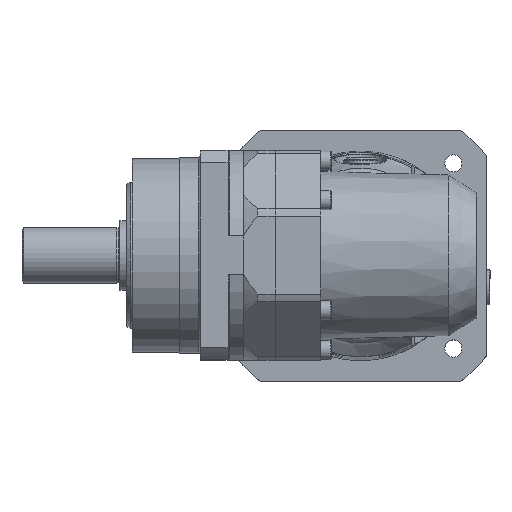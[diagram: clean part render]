
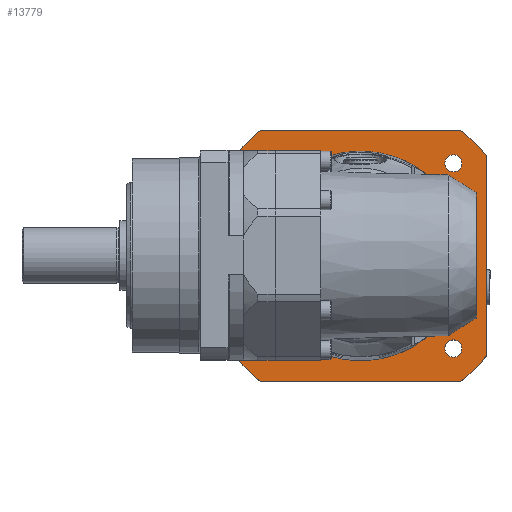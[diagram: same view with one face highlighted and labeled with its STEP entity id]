
A CAD part, top view. The second image highlights one B-rep face of the part: STEP entity #13779.
In plain terms, the highlighted planar face has unit normal (0, 0, 1) as drawn and (-1, 0, 0) by its records, which use the part's own axes.
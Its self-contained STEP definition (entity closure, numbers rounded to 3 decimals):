
#1031=FACE_BOUND('',#2953,.T.);
#1032=FACE_BOUND('',#2954,.T.);
#1033=FACE_BOUND('',#2955,.T.);
#1034=FACE_BOUND('',#2956,.T.);
#1035=FACE_BOUND('',#2957,.T.);
#1307=PLANE('',#16098);
#2020=FACE_OUTER_BOUND('',#2952,.T.);
#2952=EDGE_LOOP('',(#12579,#12580,#12581,#12582,#12583,#12584,#12585,#12586));
#2953=EDGE_LOOP('',(#12587));
#2954=EDGE_LOOP('',(#12588));
#2955=EDGE_LOOP('',(#12589));
#2956=EDGE_LOOP('',(#12590));
#2957=EDGE_LOOP('',(#12591,#12592));
#3747=LINE('',#26801,#4406);
#3750=LINE('',#26807,#4409);
#3753=LINE('',#26813,#4412);
#3756=LINE('',#26822,#4415);
#4406=VECTOR('',#20325,10.);
#4409=VECTOR('',#20330,10.);
#4412=VECTOR('',#20335,10.);
#4415=VECTOR('',#20346,10.);
#5450=CIRCLE('',#16099,46.);
#5451=CIRCLE('',#16100,46.);
#5452=CIRCLE('',#16101,46.);
#5453=CIRCLE('',#16102,46.);
#5454=CIRCLE('',#16103,2.459);
#5455=CIRCLE('',#16104,2.459);
#5456=CIRCLE('',#16105,2.459);
#5457=CIRCLE('',#16106,2.459);
#5458=CIRCLE('',#16107,30.);
#5459=CIRCLE('',#16108,30.);
#6922=VERTEX_POINT('',#26799);
#6923=VERTEX_POINT('',#26800);
#6924=VERTEX_POINT('',#26805);
#6925=VERTEX_POINT('',#26806);
#6926=VERTEX_POINT('',#26811);
#6927=VERTEX_POINT('',#26812);
#6928=VERTEX_POINT('',#26819);
#6929=VERTEX_POINT('',#26821);
#6930=VERTEX_POINT('',#26824);
#6931=VERTEX_POINT('',#26826);
#6932=VERTEX_POINT('',#26828);
#6933=VERTEX_POINT('',#26830);
#6934=VERTEX_POINT('',#26832);
#6935=VERTEX_POINT('',#26833);
#8834=EDGE_CURVE('',#6922,#6923,#3747,.T.);
#8837=EDGE_CURVE('',#6924,#6925,#3750,.T.);
#8840=EDGE_CURVE('',#6926,#6927,#3753,.T.);
#8843=EDGE_CURVE('',#6924,#6923,#5450,.T.);
#8844=EDGE_CURVE('',#6926,#6925,#5451,.T.);
#8845=EDGE_CURVE('',#6928,#6927,#5452,.T.);
#8846=EDGE_CURVE('',#6928,#6929,#3756,.T.);
#8847=EDGE_CURVE('',#6922,#6929,#5453,.T.);
#8848=EDGE_CURVE('',#6930,#6930,#5454,.T.);
#8849=EDGE_CURVE('',#6931,#6931,#5455,.T.);
#8850=EDGE_CURVE('',#6932,#6932,#5456,.T.);
#8851=EDGE_CURVE('',#6933,#6933,#5457,.T.);
#8852=EDGE_CURVE('',#6934,#6935,#5458,.T.);
#8853=EDGE_CURVE('',#6935,#6934,#5459,.T.);
#12579=ORIENTED_EDGE('',*,*,#8834,.T.);
#12580=ORIENTED_EDGE('',*,*,#8843,.F.);
#12581=ORIENTED_EDGE('',*,*,#8837,.T.);
#12582=ORIENTED_EDGE('',*,*,#8844,.F.);
#12583=ORIENTED_EDGE('',*,*,#8840,.T.);
#12584=ORIENTED_EDGE('',*,*,#8845,.F.);
#12585=ORIENTED_EDGE('',*,*,#8846,.T.);
#12586=ORIENTED_EDGE('',*,*,#8847,.F.);
#12587=ORIENTED_EDGE('',*,*,#8848,.T.);
#12588=ORIENTED_EDGE('',*,*,#8849,.T.);
#12589=ORIENTED_EDGE('',*,*,#8850,.T.);
#12590=ORIENTED_EDGE('',*,*,#8851,.T.);
#12591=ORIENTED_EDGE('',*,*,#8852,.T.);
#12592=ORIENTED_EDGE('',*,*,#8853,.T.);
#13779=ADVANCED_FACE('',(#2020,#1031,#1032,#1033,#1034,#1035),#1307,.T.);
#16098=AXIS2_PLACEMENT_3D('',#26816,#20338,#20339);
#16099=AXIS2_PLACEMENT_3D('',#26817,#20340,#20341);
#16100=AXIS2_PLACEMENT_3D('',#26818,#20342,#20343);
#16101=AXIS2_PLACEMENT_3D('',#26820,#20344,#20345);
#16102=AXIS2_PLACEMENT_3D('',#26823,#20347,#20348);
#16103=AXIS2_PLACEMENT_3D('',#26825,#20349,#20350);
#16104=AXIS2_PLACEMENT_3D('',#26827,#20351,#20352);
#16105=AXIS2_PLACEMENT_3D('',#26829,#20353,#20354);
#16106=AXIS2_PLACEMENT_3D('',#26831,#20355,#20356);
#16107=AXIS2_PLACEMENT_3D('',#26834,#20357,#20358);
#16108=AXIS2_PLACEMENT_3D('',#26835,#20359,#20360);
#20325=DIRECTION('',(0.,-0.707,-0.707));
#20330=DIRECTION('',(0.,-0.707,0.707));
#20335=DIRECTION('',(0.,0.707,0.707));
#20338=DIRECTION('center_axis',(-1.,0.,0.));
#20339=DIRECTION('ref_axis',(0.,0.,1.));
#20340=DIRECTION('center_axis',(1.,0.,0.));
#20341=DIRECTION('ref_axis',(0.,1.,0.));
#20342=DIRECTION('center_axis',(1.,0.,0.));
#20343=DIRECTION('ref_axis',(0.,1.,0.));
#20344=DIRECTION('center_axis',(1.,0.,0.));
#20345=DIRECTION('ref_axis',(0.,1.,0.));
#20346=DIRECTION('',(0.,0.707,-0.707));
#20347=DIRECTION('center_axis',(1.,0.,0.));
#20348=DIRECTION('ref_axis',(0.,1.,0.));
#20349=DIRECTION('center_axis',(1.,0.,0.));
#20350=DIRECTION('ref_axis',(0.,0.,-1.));
#20351=DIRECTION('center_axis',(1.,0.,0.));
#20352=DIRECTION('ref_axis',(0.,0.,-1.));
#20353=DIRECTION('center_axis',(1.,0.,0.));
#20354=DIRECTION('ref_axis',(0.,0.,-1.));
#20355=DIRECTION('center_axis',(1.,0.,0.));
#20356=DIRECTION('ref_axis',(0.,0.,-1.));
#20357=DIRECTION('center_axis',(1.,0.,0.));
#20358=DIRECTION('ref_axis',(0.,1.,0.));
#20359=DIRECTION('center_axis',(1.,0.,0.));
#20360=DIRECTION('ref_axis',(0.,1.,0.));
#26799=CARTESIAN_POINT('',(4.,45.704,-5.207));
#26800=CARTESIAN_POINT('',(4.,5.207,-45.704));
#26801=CARTESIAN_POINT('',(4.,45.08,-5.832));
#26805=CARTESIAN_POINT('',(4.,-5.207,-45.704));
#26806=CARTESIAN_POINT('',(4.,-45.704,-5.207));
#26807=CARTESIAN_POINT('',(4.,-5.832,-45.08));
#26811=CARTESIAN_POINT('',(4.,-45.704,5.207));
#26812=CARTESIAN_POINT('',(4.,-5.207,45.704));
#26813=CARTESIAN_POINT('',(4.,-26.08,24.832));
#26816=CARTESIAN_POINT('Origin',(4.,38.,0.));
#26817=CARTESIAN_POINT('Origin',(4.,0.,0.));
#26818=CARTESIAN_POINT('Origin',(4.,0.,0.));
#26819=CARTESIAN_POINT('',(4.,5.207,45.704));
#26820=CARTESIAN_POINT('Origin',(4.,0.,0.));
#26821=CARTESIAN_POINT('',(4.,45.704,5.207));
#26822=CARTESIAN_POINT('',(4.,24.832,26.08));
#26823=CARTESIAN_POINT('Origin',(4.,0.,0.));
#26824=CARTESIAN_POINT('',(4.,-37.5,2.459));
#26825=CARTESIAN_POINT('Origin',(4.,-37.5,0.));
#26826=CARTESIAN_POINT('',(4.,37.5,2.459));
#26827=CARTESIAN_POINT('Origin',(4.,37.5,0.));
#26828=CARTESIAN_POINT('',(4.,0.,39.959));
#26829=CARTESIAN_POINT('Origin',(4.,0.,
37.5));
#26830=CARTESIAN_POINT('',(4.,0.,-35.042));
#26831=CARTESIAN_POINT('Origin',(4.,0.,
-37.5));
#26832=CARTESIAN_POINT('',(4.,30.,0.));
#26833=CARTESIAN_POINT('',(4.,-30.,0.));
#26834=CARTESIAN_POINT('Origin',(4.,0.,0.));
#26835=CARTESIAN_POINT('Origin',(4.,0.,0.));
